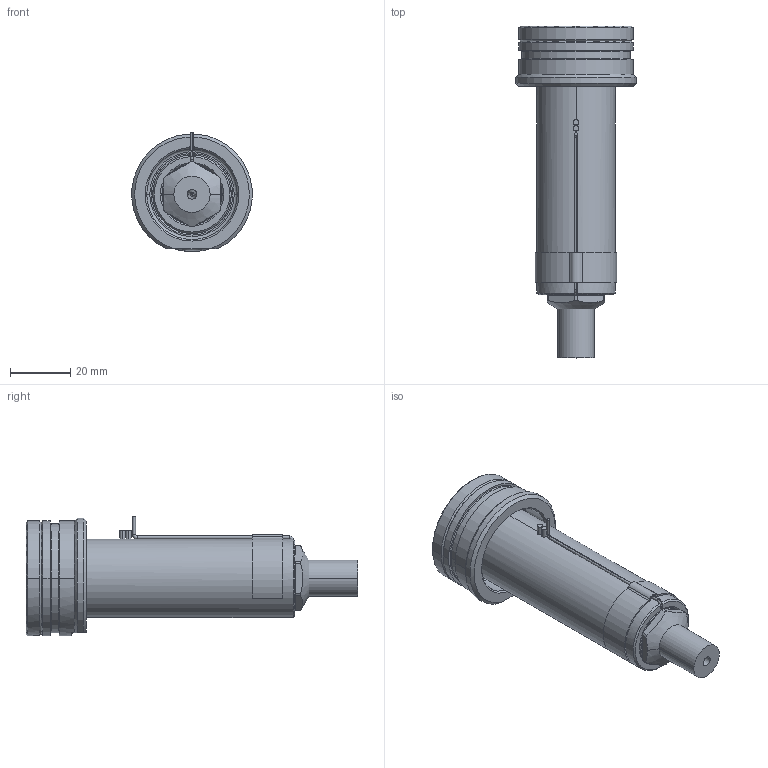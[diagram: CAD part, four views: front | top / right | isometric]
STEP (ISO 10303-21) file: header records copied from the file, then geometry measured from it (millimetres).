
FILE_DESCRIPTION((''),'2;1');
FILE_NAME('EO08_PG-FBE_STD_080_SW','2024-02-19T11:54:07',('sundharh'),(''),'CREO PARAMETRIC BY PTC INC, 2023154','CREO PARAMETRIC BY PTC INC, 2023154','');
FILE_SCHEMA(('CONFIG_CONTROL_DESIGN'));
Length unit declared in the file: millimetre
Products named in the file (1): EO08_PG-FBE_STD_080_SW
Bounding box: 39.88 x 110 x 39.52 mm (x, y, z)
Volume: 55628.2 mm3; surface area: 18007.4 mm2
Topology: 1 solids, 1 shells, 210 faces, 558 edges, 344 vertices
Faces by surface type: cylinder 81, plane 58, cone 45, torus 19, bspline 4, sphere 3
Entity records: 8046 total; most frequent: CARTESIAN_POINT 2712, DIRECTION 1176, ORIENTED_EDGE 1104, EDGE_CURVE 552, AXIS2_PLACEMENT_3D 491, VERTEX_POINT 344, CIRCLE 285, EDGE_LOOP 228
